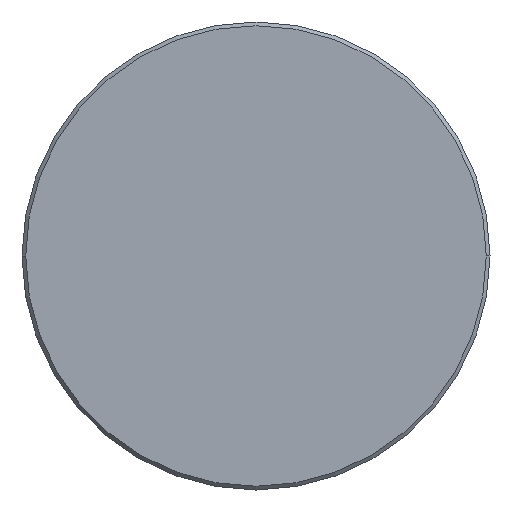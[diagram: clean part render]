
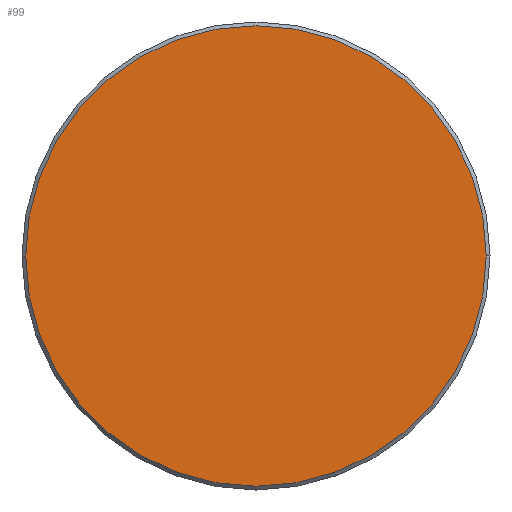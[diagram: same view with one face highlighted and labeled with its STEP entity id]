
A CAD part, left-side view. The second image highlights one B-rep face of the part: STEP entity #99.
In plain terms, the highlighted planar face has unit normal (-1, 0, 0).
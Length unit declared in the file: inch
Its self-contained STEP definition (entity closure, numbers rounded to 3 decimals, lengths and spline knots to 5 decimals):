
#19 = CARTESIAN_POINT ( 'NONE',  ( 0., -0.246, 0. ) ) ;
#32 = CIRCLE ( 'NONE', #92, 0.246 ) ;
#35 = DIRECTION ( 'NONE',  ( 0., -1., 0. ) ) ;
#47 = EDGE_CURVE ( 'NONE', #75, #229, #193, .T. ) ;
#75 = VERTEX_POINT ( 'NONE', #102 ) ;
#92 = AXIS2_PLACEMENT_3D ( 'NONE', #267, #291, #379 ) ;
#99 = ADVANCED_FACE ( 'NONE', ( #222 ), #161, .T. ) ;
#102 = CARTESIAN_POINT ( 'NONE',  ( 0., 0.246, 0. ) ) ;
#104 = ORIENTED_EDGE ( 'NONE', *, *, #47, .T. ) ;
#125 = DIRECTION ( 'NONE',  ( -1., 0., 0. ) ) ;
#137 = CARTESIAN_POINT ( 'NONE',  ( 0., 0., 0. ) ) ;
#161 = PLANE ( 'NONE',  #276 ) ;
#165 = DIRECTION ( 'NONE',  ( -1., 0., 0. ) ) ;
#189 = EDGE_CURVE ( 'NONE', #229, #75, #32, .T. ) ;
#193 = CIRCLE ( 'NONE', #226, 0.246 ) ;
#222 = FACE_OUTER_BOUND ( 'NONE', #368, .T. ) ;
#224 = DIRECTION ( 'NONE',  ( 0., -1., 0. ) ) ;
#226 = AXIS2_PLACEMENT_3D ( 'NONE', #311, #125, #35 ) ;
#229 = VERTEX_POINT ( 'NONE', #19 ) ;
#246 = ORIENTED_EDGE ( 'NONE', *, *, #189, .T. ) ;
#267 = CARTESIAN_POINT ( 'NONE',  ( 0., 0., 0. ) ) ;
#276 = AXIS2_PLACEMENT_3D ( 'NONE', #137, #165, #224 ) ;
#291 = DIRECTION ( 'NONE',  ( -1., 0., 0. ) ) ;
#311 = CARTESIAN_POINT ( 'NONE',  ( 0., 0., 0. ) ) ;
#368 = EDGE_LOOP ( 'NONE', ( #104, #246 ) ) ;
#379 = DIRECTION ( 'NONE',  ( 0., -1., 0. ) ) ;
